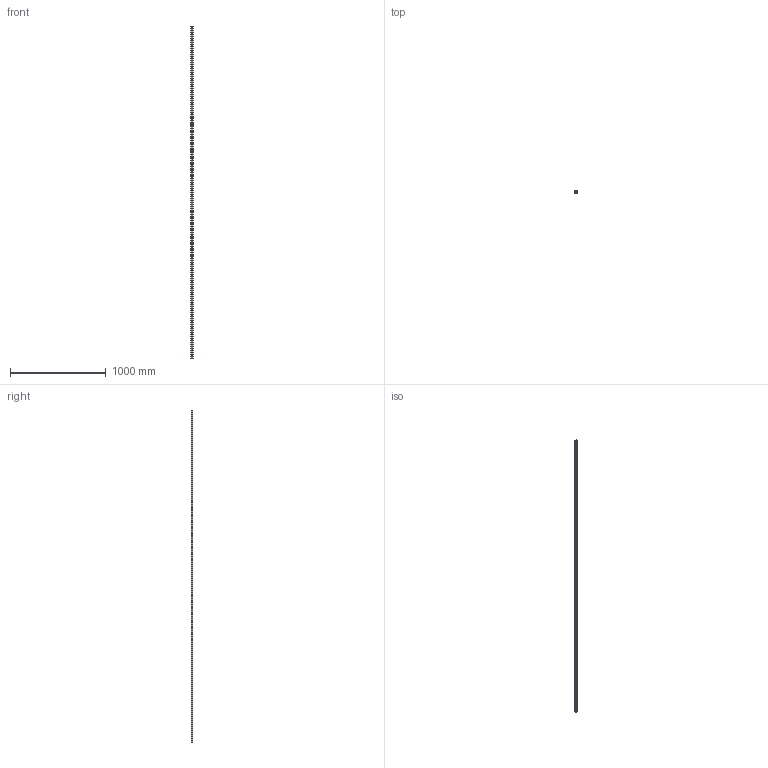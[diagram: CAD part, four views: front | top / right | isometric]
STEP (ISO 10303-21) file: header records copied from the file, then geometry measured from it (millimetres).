
FILE_DESCRIPTION (( 'STEP AP203' ), '1' );
FILE_NAME ('L1016.BL25-3460.step', '2019-06-12T12:15:19', ( '' ), ( '' ), 'SwSTEP 2.0', 'SolidWorks 2017', '' );
FILE_SCHEMA (( 'CONFIG_CONTROL_DESIGN' ));
Length unit declared in the file: millimetre
Products named in the file (1): L1016.BL25-3460
Bounding box: 23 x 19.2 x 3460 mm (x, y, z)
Volume: 1275124.3 mm3; surface area: 327216.6 mm2
Topology: 1 solids, 1 shells, 316 faces, 768 edges, 512 vertices
Faces by surface type: cylinder 236, plane 80
Entity records: 9833 total; most frequent: DIRECTION 1874, CARTESIAN_POINT 1597, ORIENTED_EDGE 1536, AXIS2_PLACEMENT_3D 789, EDGE_CURVE 768, VERTEX_POINT 512, EDGE_LOOP 490, CIRCLE 472
